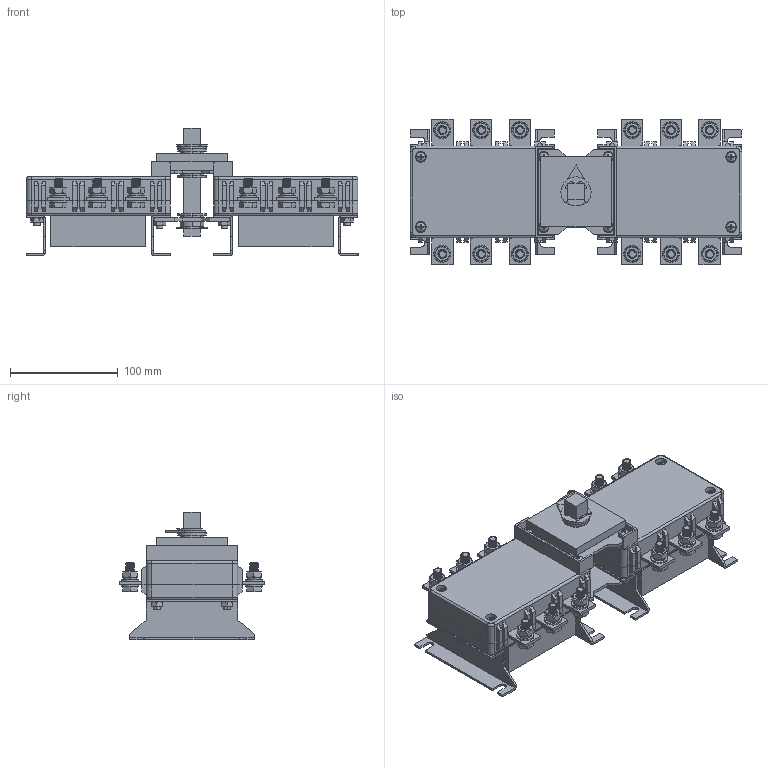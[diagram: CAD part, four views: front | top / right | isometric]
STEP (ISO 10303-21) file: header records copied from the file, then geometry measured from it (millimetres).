
FILE_DESCRIPTION((''),'2;1');
FILE_NAME('125-3S_ASM','2021-05-07T',('wangpeng'),(''),'PRO/ENGINEER BY PARAMETRIC TECHNOLOGY CORPORATION, 2009460','PRO/ENGINEER BY PARAMETRIC TECHNOLOGY CORPORATION, 2009460','');
FILE_SCHEMA(('AUTOMOTIVE_DESIGN { 1 0 10303 214 1 1 1 1 }'));
Length unit declared in the file: millimetre
Products named in the file (21): SB-125-3S; ZB-125-3S; DB-125-3S; XB-125-3S; ZCB-125-3S; YB-125-3S; ZSJNH40; FKSNH40; CT-125-3S; PDQ8; TDQ8; 0LS8; 0LMM8; PDQ6; 0LSM6; LMM6; LDM6; ZSJTNH40; ZZ-125-3S; DQM8; 125-3S_ASM
Assembly tree (124 placements, depth 2):
  125-3S_ASM
    SB-125-3S  x2
    ZB-125-3S  x2
    DB-125-3S  x4
    XB-125-3S  x2
    ZCB-125-3S  x2
    YB-125-3S  x2
    ZSJNH40
    FKSNH40  x3
    CT-125-3S  x6
    PDQ8  x24
    TDQ8  x12
    0LS8  x12
    0LMM8  x12
    PDQ6  x14
    0LSM6  x4
    LMM6  x8
    LDM6  x10
    ZSJTNH40
    ZZ-125-3S
    DQM8  x2
Bounding box: 308.01 x 135.03 x 118 mm (x, y, z)
Volume: 1496647.9 mm3; surface area: 402540.3 mm2
Topology: 124 solids, 124 shells, 2452 faces, 6497 edges, 4352 vertices
Faces by surface type: plane 1373, cylinder 623, cone 244, bspline 144, torus 40, sphere 28
Entity records: 25758 total; most frequent: CARTESIAN_POINT 8018, DIRECTION 3319, ORIENTED_EDGE 3238, EDGE_CURVE 1619, VECTOR 1153, LINE 1153, AXIS2_PLACEMENT_3D 1083, VERTEX_POINT 1075
